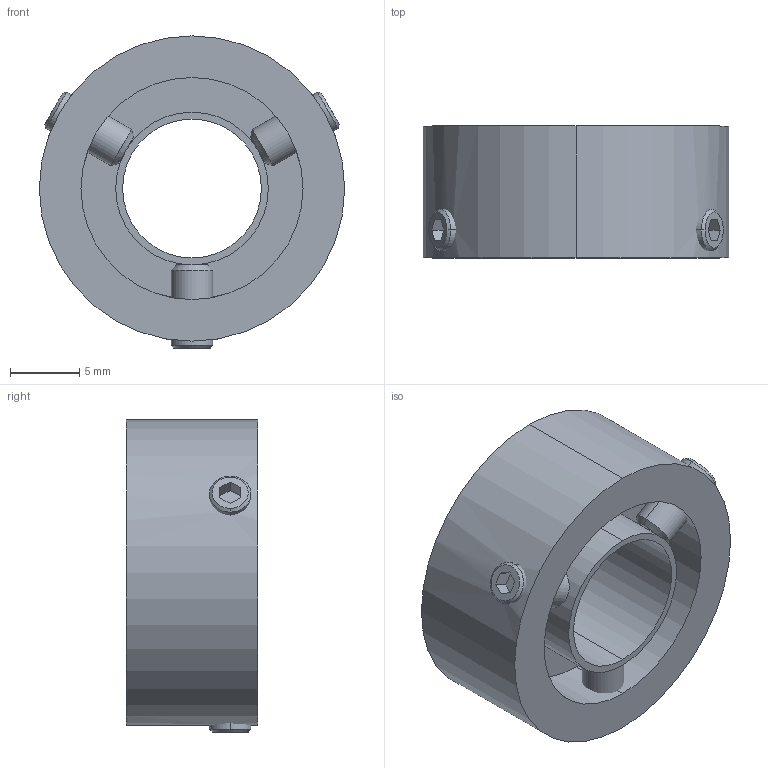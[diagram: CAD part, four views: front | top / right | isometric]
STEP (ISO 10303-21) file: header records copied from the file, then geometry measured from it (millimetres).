
FILE_DESCRIPTION (( 'STEP AP203' ), '1' );
FILE_NAME ('MN01139_Nosilec_19_12_fi10_sestav.STEP', '2017-08-10T09:18:21', ( '' ), ( '' ), 'SwSTEP 2.0', 'SolidWorks 2016', '' );
FILE_SCHEMA (( 'CONFIG_CONTROL_DESIGN' ));
Length unit declared in the file: millimetre
Products named in the file (4): navojni_zatic_M3x6_DIN913; Magnet_D19-d12-w3; MN01139_Nosilec_19_12_fi10_sestav; Nosilec_magneta_os_fi10
Assembly tree (5 placements, depth 2):
  MN01139_Nosilec_19_12_fi10_sestav
    Nosilec_magneta_os_fi10
    navojni_zatic_M3x6_DIN913  x3
    Magnet_D19-d12-w3
Bounding box: 22 x 9.5 x 22.5 mm (x, y, z)
Volume: 2415.9 mm3; surface area: 3123.9 mm2
Topology: 5 solids, 5 shells, 83 faces, 184 edges, 116 vertices
Faces by surface type: plane 35, cylinder 28, cone 12, torus 8
Entity records: 2198 total; most frequent: CARTESIAN_POINT 495, DIRECTION 282, ORIENTED_EDGE 240, EDGE_CURVE 120, AXIS2_PLACEMENT_3D 117, VERTEX_POINT 76, EDGE_LOOP 66, CIRCLE 56
